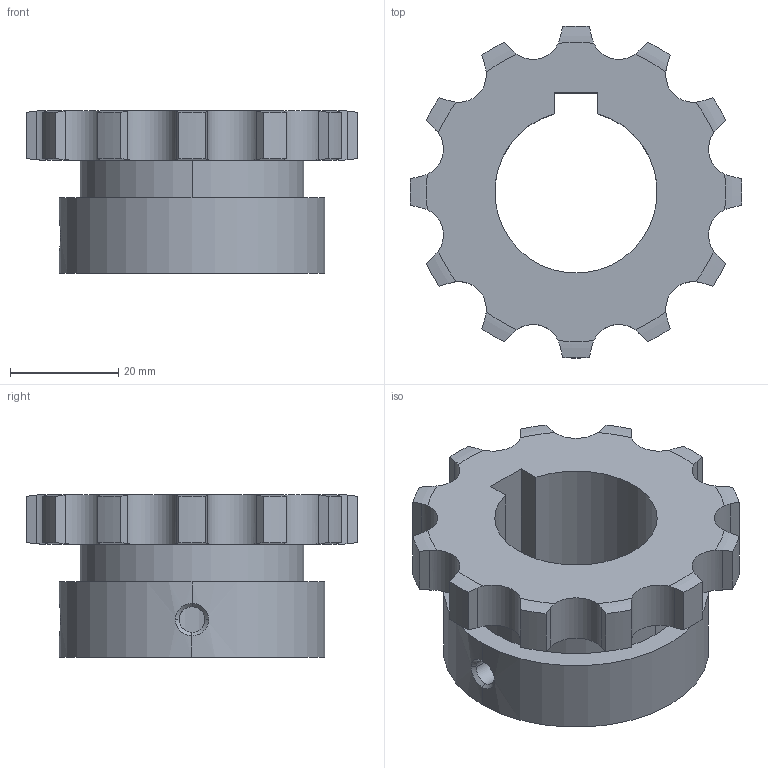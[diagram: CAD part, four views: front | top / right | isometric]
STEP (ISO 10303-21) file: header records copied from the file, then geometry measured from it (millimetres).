
FILE_DESCRIPTION((''),'2;1');
FILE_NAME('510-301-3012_PRT','2021-02-13T',('Brieden'),('Brieden'),'PRO/ENGINEER BY PARAMETRIC TECHNOLOGY CORPORATION, 2010160','PRO/ENGINEER BY PARAMETRIC TECHNOLOGY CORPORATION, 2010160','');
FILE_SCHEMA(('AUTOMOTIVE_DESIGN { 1 0 10303 214 1 1 1 1 }'));
Length unit declared in the file: millimetre
Products named in the file (1): 510-301-3012_PRT
Bounding box: 61.32 x 61.32 x 30 mm (x, y, z)
Volume: 35720.4 mm3; surface area: 12988.1 mm2
Topology: 1 solids, 1 shells, 94 faces, 267 edges, 176 vertices
Faces by surface type: cylinder 57, torus 24, plane 7, bspline 6
Entity records: 4652 total; most frequent: CARTESIAN_POINT 1480, ORIENTED_EDGE 534, DIRECTION 417, PRESENTATION_STYLE_ASSIGNMENT 268, STYLED_ITEM 268, CURVE_STYLE 267, EDGE_CURVE 267, VERTEX_POINT 176
